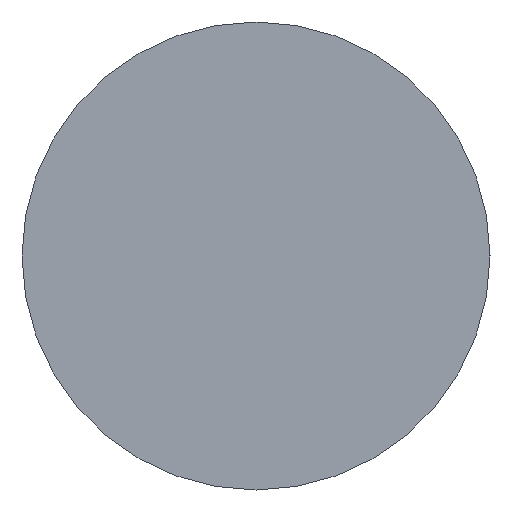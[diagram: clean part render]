
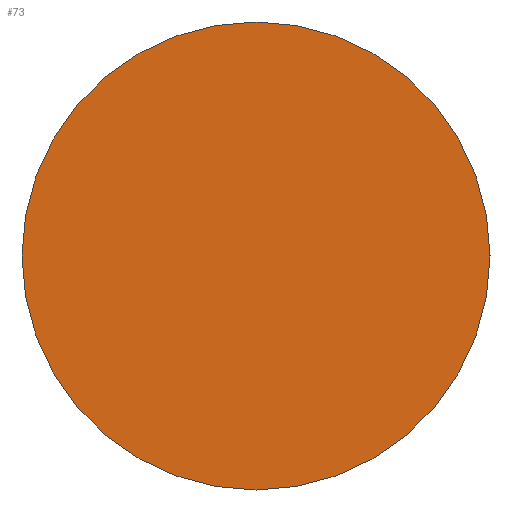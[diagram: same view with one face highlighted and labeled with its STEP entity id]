
A CAD part, left-side view. The second image highlights one B-rep face of the part: STEP entity #73.
In plain terms, the highlighted planar face has unit normal (-1, 0, 0).
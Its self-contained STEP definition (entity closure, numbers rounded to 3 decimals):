
#2 = AXIS2_PLACEMENT_3D ( 'NONE', #167, #120, #223 ) ;
#8 = ORIENTED_EDGE ( 'NONE', *, *, #255, .F. ) ;
#35 = EDGE_CURVE ( 'NONE', #130, #104, #181, .T. ) ;
#54 = ORIENTED_EDGE ( 'NONE', *, *, #35, .F. ) ;
#65 = DIRECTION ( 'NONE',  ( -1., 0., 0. ) ) ;
#72 = AXIS2_PLACEMENT_3D ( 'NONE', #243, #263, #91 ) ;
#73 = ADVANCED_FACE ( 'NONE', ( #89 ), #150, .T. ) ;
#89 = FACE_OUTER_BOUND ( 'NONE', #143, .T. ) ;
#91 = DIRECTION ( 'NONE',  ( 0., 1., 0. ) ) ;
#100 = CARTESIAN_POINT ( 'NONE',  ( 0., -1.25, 0. ) ) ;
#104 = VERTEX_POINT ( 'NONE', #100 ) ;
#120 = DIRECTION ( 'NONE',  ( 1., 0., 0. ) ) ;
#123 = CIRCLE ( 'NONE', #2, 1.25 ) ;
#130 = VERTEX_POINT ( 'NONE', #149 ) ;
#143 = EDGE_LOOP ( 'NONE', ( #54, #8 ) ) ;
#149 = CARTESIAN_POINT ( 'NONE',  ( 0., 1.25, 0. ) ) ;
#150 = PLANE ( 'NONE',  #153 ) ;
#153 = AXIS2_PLACEMENT_3D ( 'NONE', #265, #65, #212 ) ;
#167 = CARTESIAN_POINT ( 'NONE',  ( 0., 0., 0. ) ) ;
#181 = CIRCLE ( 'NONE', #72, 1.25 ) ;
#212 = DIRECTION ( 'NONE',  ( 0., -1., 0. ) ) ;
#223 = DIRECTION ( 'NONE',  ( 0., 1., 0. ) ) ;
#243 = CARTESIAN_POINT ( 'NONE',  ( 0., 0., 0. ) ) ;
#255 = EDGE_CURVE ( 'NONE', #104, #130, #123, .T. ) ;
#263 = DIRECTION ( 'NONE',  ( 1., 0., 0. ) ) ;
#265 = CARTESIAN_POINT ( 'NONE',  ( 0., 0., 0. ) ) ;
